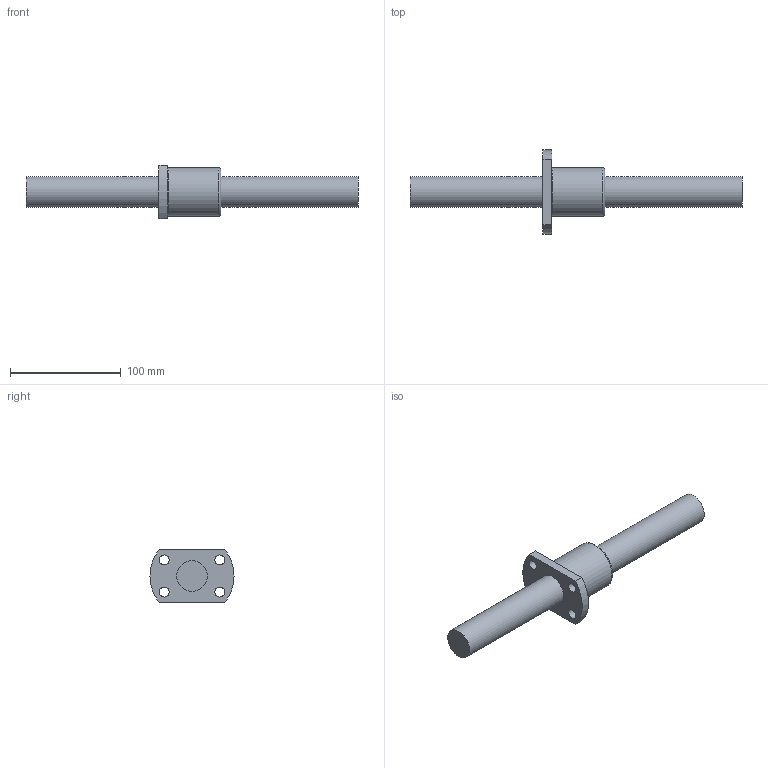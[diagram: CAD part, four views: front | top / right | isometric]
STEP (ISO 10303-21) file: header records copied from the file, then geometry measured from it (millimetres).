
FILE_DESCRIPTION((''),'2;1');
FILE_NAME('D:\製品 (図面)\カタログ用3D\ネジ関連\STEP形式\TMK\TMK28.stp','2010-06-02T15:25:12',('Tsuchiya'),(''),'Autodesk Inventor 10','Autodesk Inventor 10','');
FILE_SCHEMA(('AUTOMOTIVE_DESIGN { 1 0 10303 214 1 1 1 1 }'));
Length unit declared in the file: millimetre
Products named in the file (3): TMK28; TMK281; TMK282
Assembly tree (2 placements, depth 2):
  TMK28
    TMK281
    TMK282
Bounding box: 300 x 76 x 48 mm (x, y, z)
Volume: 248191.2 mm3; surface area: 46746.8 mm2
Topology: 2 solids, 2 shells, 18 faces, 41 edges, 28 vertices
Faces by surface type: plane 7, cylinder 5, bspline 5, torus 1
Full cylindrical faces by diameter (mm): 28 x2, 44 x1
Entity records: 628 total; most frequent: CARTESIAN_POINT 187, DIRECTION 84, ORIENTED_EDGE 56, AXIS2_PLACEMENT_3D 38, EDGE_LOOP 38, EDGE_CURVE 28, VERTEX_POINT 24, CIRCLE 20
